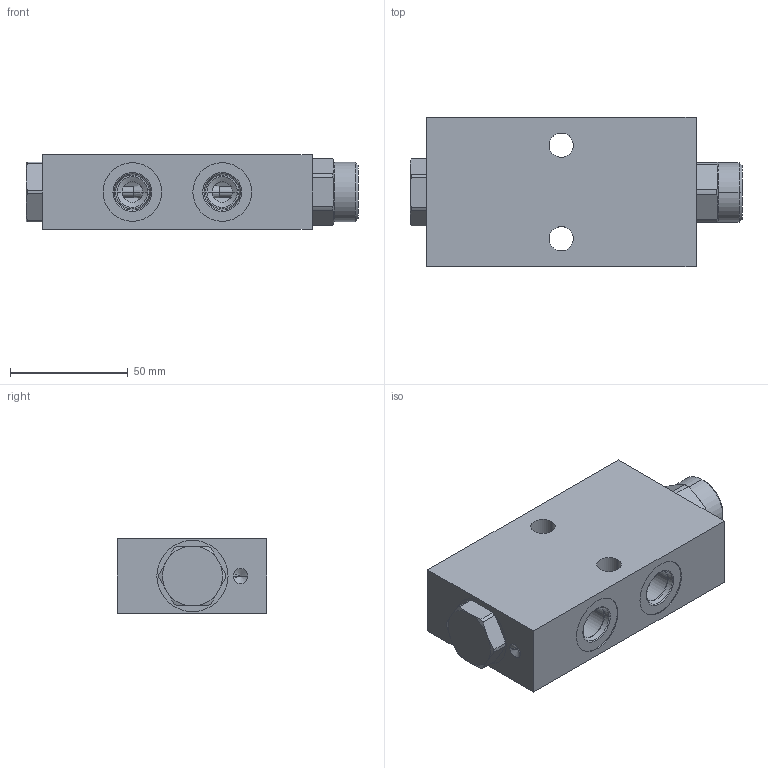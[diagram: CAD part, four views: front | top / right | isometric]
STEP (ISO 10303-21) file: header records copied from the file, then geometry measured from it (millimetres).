
FILE_DESCRIPTION((''),'2;1');
FILE_NAME('ASM0001_ASM','2015-04-15T',('mg1'),(''),'PRO/ENGINEER BY PARAMETRIC TECHNOLOGY CORPORATION, 2013230','PRO/ENGINEER BY PARAMETRIC TECHNOLOGY CORPORATION, 2013230','');
FILE_SCHEMA(('CONFIG_CONTROL_DESIGN'));
Length unit declared in the file: inch
Products named in the file (15): 7025260; MANIFOLD_SOLID_BREP_2932; MANIFOLD_SOLID_BREP_3246; MANIFOLD_SOLID_BREP_3534; MANIFOLD_SOLID_BREP_3864; CV10-20_SW_1_ASM; CV10-20_ASM; 7013300; MANIFOLD_SOLID_BREP_3670; MANIFOLD_SOLID_BREP_4048; MANIFOLD_SOLID_BREP_4394; MANIFOLD_SOLID_BREP_4682; CV10-28_SW_1_ASM; CV10-28_ASM; ASM0001_ASM
Assembly tree (14 placements, depth 4):
  ASM0001_ASM
    7025260
    CV10-20_ASM
      CV10-20_SW_1_ASM
        MANIFOLD_SOLID_BREP_2932
        MANIFOLD_SOLID_BREP_3246
        MANIFOLD_SOLID_BREP_3534
        MANIFOLD_SOLID_BREP_3864
    7013300
    CV10-28_ASM
      CV10-28_SW_1_ASM
        MANIFOLD_SOLID_BREP_3670
        MANIFOLD_SOLID_BREP_4048
        MANIFOLD_SOLID_BREP_4394
        MANIFOLD_SOLID_BREP_4682
Bounding box: 140.84 x 63.5 x 31.75 mm (x, y, z)
Volume: 215777.1 mm3; surface area: 49813.5 mm2
Topology: 10 solids, 10 shells, 443 faces, 1077 edges, 681 vertices
Faces by surface type: cylinder 162, torus 116, cone 99, plane 66
Entity records: 14786 total; most frequent: CARTESIAN_POINT 3603, DIRECTION 2583, ORIENTED_EDGE 2150, AXIS2_PLACEMENT_3D 1146, EDGE_CURVE 1075, VERTEX_POINT 681, CIRCLE 664, EDGE_LOOP 498
